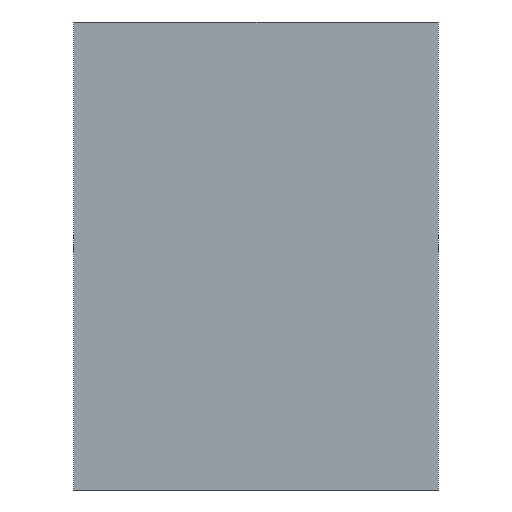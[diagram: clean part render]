
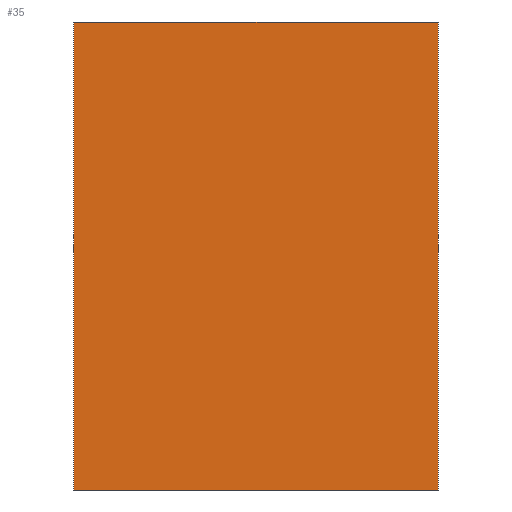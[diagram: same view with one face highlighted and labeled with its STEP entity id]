
A CAD part, left-side view. The second image highlights one B-rep face of the part: STEP entity #35.
In plain terms, the highlighted planar face has unit normal (-1, 0, 0).
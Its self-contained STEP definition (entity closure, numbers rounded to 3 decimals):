
#35 = ADVANCED_FACE('',(#36),#50,.F.);
#36 = FACE_BOUND('',#37,.F.);
#37 = EDGE_LOOP('',(#38,#73,#101,#129));
#38 = ORIENTED_EDGE('',*,*,#39,.F.);
#39 = EDGE_CURVE('',#40,#42,#44,.T.);
#40 = VERTEX_POINT('',#41);
#41 = CARTESIAN_POINT('',(-2.875,-4.05,0.));
#42 = VERTEX_POINT('',#43);
#43 = CARTESIAN_POINT('',(-2.875,-4.05,10.4));
#44 = SURFACE_CURVE('',#45,(#49,#61),.PCURVE_S1.);
#45 = LINE('',#46,#47);
#46 = CARTESIAN_POINT('',(-2.875,-4.05,0.));
#47 = VECTOR('',#48,1.);
#48 = DIRECTION('',(0.,0.,1.));
#49 = PCURVE('',#50,#55);
#50 = PLANE('',#51);
#51 = AXIS2_PLACEMENT_3D('',#52,#53,#54);
#52 = CARTESIAN_POINT('',(-2.875,-4.05,0.));
#53 = DIRECTION('',(1.,0.,0.));
#54 = DIRECTION('',(0.,0.,1.));
#55 = DEFINITIONAL_REPRESENTATION('',(#56),#60);
#56 = LINE('',#57,#58);
#57 = CARTESIAN_POINT('',(0.,0.));
#58 = VECTOR('',#59,1.);
#59 = DIRECTION('',(1.,0.));
#60 = ( GEOMETRIC_REPRESENTATION_CONTEXT(2) 
PARAMETRIC_REPRESENTATION_CONTEXT() REPRESENTATION_CONTEXT('2D SPACE',''
  ) );
#61 = PCURVE('',#62,#67);
#62 = PLANE('',#63);
#63 = AXIS2_PLACEMENT_3D('',#64,#65,#66);
#64 = CARTESIAN_POINT('',(-2.875,-4.05,0.));
#65 = DIRECTION('',(0.,1.,0.));
#66 = DIRECTION('',(0.,0.,1.));
#67 = DEFINITIONAL_REPRESENTATION('',(#68),#72);
#68 = LINE('',#69,#70);
#69 = CARTESIAN_POINT('',(0.,0.));
#70 = VECTOR('',#71,1.);
#71 = DIRECTION('',(1.,0.));
#72 = ( GEOMETRIC_REPRESENTATION_CONTEXT(2) 
PARAMETRIC_REPRESENTATION_CONTEXT() REPRESENTATION_CONTEXT('2D SPACE',''
  ) );
#73 = ORIENTED_EDGE('',*,*,#74,.T.);
#74 = EDGE_CURVE('',#40,#75,#77,.T.);
#75 = VERTEX_POINT('',#76);
#76 = CARTESIAN_POINT('',(-2.875,4.05,0.));
#77 = SURFACE_CURVE('',#78,(#82,#89),.PCURVE_S1.);
#78 = LINE('',#79,#80);
#79 = CARTESIAN_POINT('',(-2.875,-4.05,0.));
#80 = VECTOR('',#81,1.);
#81 = DIRECTION('',(0.,1.,0.));
#82 = PCURVE('',#50,#83);
#83 = DEFINITIONAL_REPRESENTATION('',(#84),#88);
#84 = LINE('',#85,#86);
#85 = CARTESIAN_POINT('',(0.,0.));
#86 = VECTOR('',#87,1.);
#87 = DIRECTION('',(0.,-1.));
#88 = ( GEOMETRIC_REPRESENTATION_CONTEXT(2) 
PARAMETRIC_REPRESENTATION_CONTEXT() REPRESENTATION_CONTEXT('2D SPACE',''
  ) );
#89 = PCURVE('',#90,#95);
#90 = PLANE('',#91);
#91 = AXIS2_PLACEMENT_3D('',#92,#93,#94);
#92 = CARTESIAN_POINT('',(-2.875,-4.05,0.));
#93 = DIRECTION('',(0.,0.,1.));
#94 = DIRECTION('',(1.,0.,0.));
#95 = DEFINITIONAL_REPRESENTATION('',(#96),#100);
#96 = LINE('',#97,#98);
#97 = CARTESIAN_POINT('',(0.,0.));
#98 = VECTOR('',#99,1.);
#99 = DIRECTION('',(0.,1.));
#100 = ( GEOMETRIC_REPRESENTATION_CONTEXT(2) 
PARAMETRIC_REPRESENTATION_CONTEXT() REPRESENTATION_CONTEXT('2D SPACE',''
  ) );
#101 = ORIENTED_EDGE('',*,*,#102,.T.);
#102 = EDGE_CURVE('',#75,#103,#105,.T.);
#103 = VERTEX_POINT('',#104);
#104 = CARTESIAN_POINT('',(-2.875,4.05,10.4));
#105 = SURFACE_CURVE('',#106,(#110,#117),.PCURVE_S1.);
#106 = LINE('',#107,#108);
#107 = CARTESIAN_POINT('',(-2.875,4.05,0.));
#108 = VECTOR('',#109,1.);
#109 = DIRECTION('',(0.,0.,1.));
#110 = PCURVE('',#50,#111);
#111 = DEFINITIONAL_REPRESENTATION('',(#112),#116);
#112 = LINE('',#113,#114);
#113 = CARTESIAN_POINT('',(0.,-8.1));
#114 = VECTOR('',#115,1.);
#115 = DIRECTION('',(1.,0.));
#116 = ( GEOMETRIC_REPRESENTATION_CONTEXT(2) 
PARAMETRIC_REPRESENTATION_CONTEXT() REPRESENTATION_CONTEXT('2D SPACE',''
  ) );
#117 = PCURVE('',#118,#123);
#118 = PLANE('',#119);
#119 = AXIS2_PLACEMENT_3D('',#120,#121,#122);
#120 = CARTESIAN_POINT('',(-2.875,4.05,0.));
#121 = DIRECTION('',(0.,1.,0.));
#122 = DIRECTION('',(0.,0.,1.));
#123 = DEFINITIONAL_REPRESENTATION('',(#124),#128);
#124 = LINE('',#125,#126);
#125 = CARTESIAN_POINT('',(0.,0.));
#126 = VECTOR('',#127,1.);
#127 = DIRECTION('',(1.,0.));
#128 = ( GEOMETRIC_REPRESENTATION_CONTEXT(2) 
PARAMETRIC_REPRESENTATION_CONTEXT() REPRESENTATION_CONTEXT('2D SPACE',''
  ) );
#129 = ORIENTED_EDGE('',*,*,#130,.F.);
#130 = EDGE_CURVE('',#42,#103,#131,.T.);
#131 = SURFACE_CURVE('',#132,(#136,#143),.PCURVE_S1.);
#132 = LINE('',#133,#134);
#133 = CARTESIAN_POINT('',(-2.875,-4.05,10.4));
#134 = VECTOR('',#135,1.);
#135 = DIRECTION('',(0.,1.,0.));
#136 = PCURVE('',#50,#137);
#137 = DEFINITIONAL_REPRESENTATION('',(#138),#142);
#138 = LINE('',#139,#140);
#139 = CARTESIAN_POINT('',(10.4,0.));
#140 = VECTOR('',#141,1.);
#141 = DIRECTION('',(0.,-1.));
#142 = ( GEOMETRIC_REPRESENTATION_CONTEXT(2) 
PARAMETRIC_REPRESENTATION_CONTEXT() REPRESENTATION_CONTEXT('2D SPACE',''
  ) );
#143 = PCURVE('',#144,#149);
#144 = PLANE('',#145);
#145 = AXIS2_PLACEMENT_3D('',#146,#147,#148);
#146 = CARTESIAN_POINT('',(-2.875,-4.05,10.4));
#147 = DIRECTION('',(0.,0.,1.));
#148 = DIRECTION('',(1.,0.,0.));
#149 = DEFINITIONAL_REPRESENTATION('',(#150),#154);
#150 = LINE('',#151,#152);
#151 = CARTESIAN_POINT('',(0.,0.));
#152 = VECTOR('',#153,1.);
#153 = DIRECTION('',(0.,1.));
#154 = ( GEOMETRIC_REPRESENTATION_CONTEXT(2) 
PARAMETRIC_REPRESENTATION_CONTEXT() REPRESENTATION_CONTEXT('2D SPACE',''
  ) );
